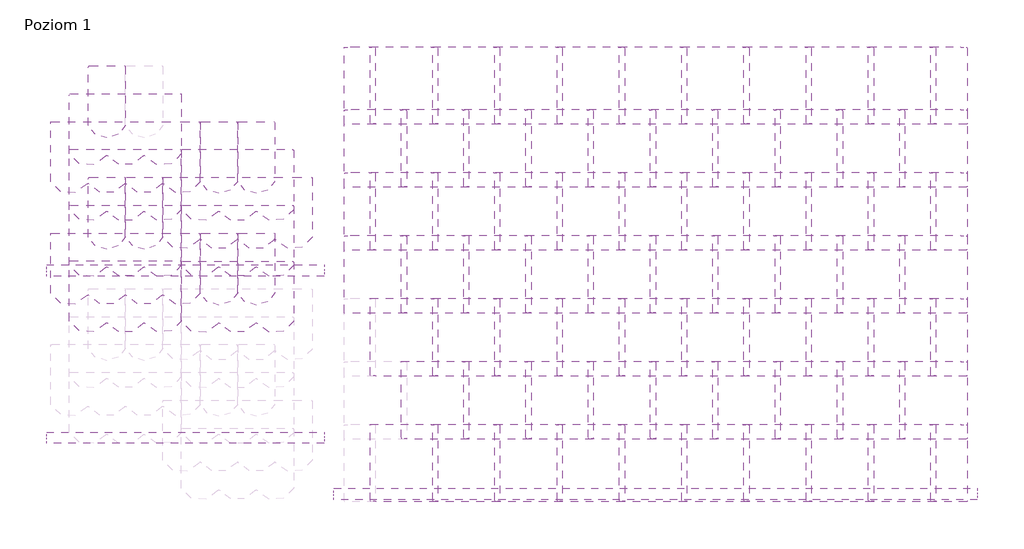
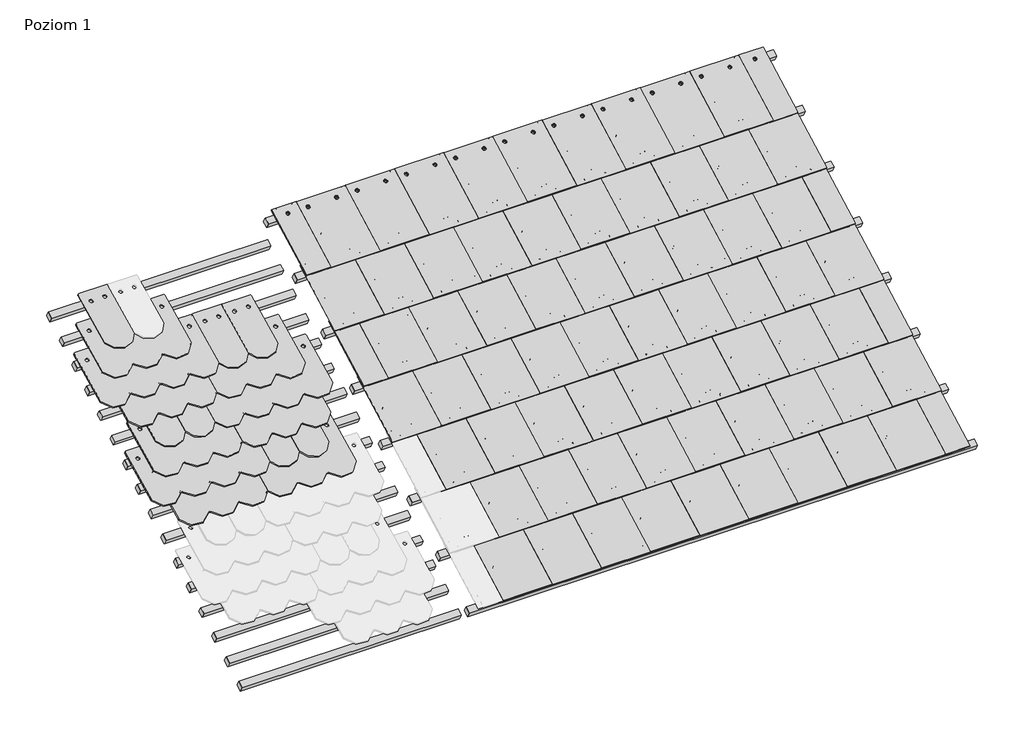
# One storey, part 2 of 2: 91 proxies.
"""IFC4 building model written with IfcOpenShell, lengths in millimetres."""

from ifc_helpers import new_model, si_unit, origin, place, context, project, spatial, transform, mapped, element, save
from components import specialty_equipment_79304ab4, specialty_equipment_e27853ea, specialty_equipment_401cbe25, proxy_1x_fa84d4f5, proxy_1x_8219172e, proxy_1x_6a27df64, proxy_3x_0312541a, proxy_3x_219e119c, proxy_4x_7edb7a29, battens_battens_69cfc6a3, battens_battens_79cefbce

model = new_model("IFC4")

# Units and contexts
model_context = context("Model", 3, world=origin())
ifc_project = project(units=[si_unit("LENGTHUNIT", "METRE", prefix="MILLI")], contexts=[model_context])

# Site, building, storey
site = spatial("IfcSite", under=ifc_project)
building = spatial("IfcBuilding", under=site)
storey = spatial("IfcBuildingStorey", under=building, Name="Poziom 1", Elevation=0.0)

# Proxies
placement = place(None, origin())
specialty_equipment_shape = specialty_equipment_79304ab4(model_context)
element("IfcBuildingElementProxy", 1, Name="ML PhotonRoof Flat Brick : 0.5X-P", ObjectType="ML PhotonRoof Flat Brick : 0.5X-P", at=placement, inside=storey, context=model_context, shape_type="MappedRepresentation", body=[
    mapped(specialty_equipment_shape, transform((2819.2113766, 4074.5738656, 2471.5895588), x_axis=(1.0, 0.0, 0.0), y_axis=(0.0, 0.8660254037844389, 0.4999999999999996), z_axis=(0.0, -0.4999999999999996, 0.8660254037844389))),
])
specialty_equipment_2_shape = specialty_equipment_e27853ea(model_context)
element("IfcBuildingElementProxy", 2, Name="ML PhotonRoof Flat Brick : 1X-L", ObjectType="ML PhotonRoof Flat Brick : 1X-L", at=placement, inside=storey, context=model_context, shape_type="MappedRepresentation", body=[
    mapped(specialty_equipment_2_shape, transform((-30.7886234, 3165.2471916, 1946.5895588), x_axis=(1.0, 0.0, 0.0), y_axis=(0.0, 0.8660254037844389, 0.4999999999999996), z_axis=(0.0, -0.4999999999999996, 0.8660254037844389))),
])
specialty_equipment_3_shape = specialty_equipment_401cbe25(model_context)
element("IfcBuildingElementProxy", 3, Name="ML PhotonRoof Flat Brick Premium : 0.5X-L", ObjectType="ML PhotonRoof Flat Brick Premium : 0.5X-L", at=placement, inside=storey, context=model_context, shape_type="MappedRepresentation", body=[
    mapped(specialty_equipment_3_shape, transform((-180.7886234, 4074.5738656, 2471.5895588), x_axis=(1.0, 0.0, 0.0), y_axis=(0.0, 0.8660254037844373, 0.5000000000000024), z_axis=(0.0, -0.5000000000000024, 0.8660254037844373))),
])
element("IfcBuildingElementProxy", 4, Name="ML PhotonRoof Flat Brick Premium : 0.5X-P", ObjectType="ML PhotonRoof Flat Brick Premium : 0.5X-P", at=placement, inside=storey, context=model_context, shape_type="MappedRepresentation", body=[
    mapped(specialty_equipment_shape, transform((2819.2113766, 2862.1383003, 1771.5895588), x_axis=(1.0, 0.0, 0.0), y_axis=(0.0, 0.8660254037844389, 0.4999999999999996), z_axis=(0.0, -0.4999999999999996, 0.8660254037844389))),
])
element("IfcBuildingElementProxy", 5, Name="ML PhotonRoof Flat Anthracite : 0.5X-L", ObjectType="ML PhotonRoof Flat Anthracite : 0.5X-L", at=placement, inside=storey, context=model_context, shape_type="MappedRepresentation", body=[
    mapped(specialty_equipment_3_shape, transform((-180.7886234, 3468.356083, 2121.5895588), x_axis=(1.0, 0.0, 0.0), y_axis=(0.0, 0.8660254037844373, 0.5000000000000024), z_axis=(0.0, -0.5000000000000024, 0.8660254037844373))),
])
element("IfcBuildingElementProxy", 6, Name="ML PhotonRoof Flat Anthracite : 1X-L", ObjectType="ML PhotonRoof Flat Anthracite : 1X-L", at=placement, inside=storey, context=model_context, shape_type="MappedRepresentation", body=[
    mapped(specialty_equipment_2_shape, transform((-30.7886234, 3771.4649743, 2296.5895588), x_axis=(1.0, 0.0, 0.0), y_axis=(0.0, 0.8660254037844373, 0.5000000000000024), z_axis=(0.0, -0.5000000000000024, 0.8660254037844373))),
])
element("IfcBuildingElementProxy", 7, Name="ML PhotonRoof Flat FullBlack : 0.5X-P", ObjectType="ML PhotonRoof Flat FullBlack : 0.5X-P", at=placement, inside=storey, context=model_context, shape_type="MappedRepresentation", body=[
    mapped(specialty_equipment_shape, transform((2819.2113766, 3468.356083, 2121.5895588), x_axis=(1.0, 0.0, 0.0), y_axis=(0.0, 0.8660254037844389, 0.4999999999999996), z_axis=(0.0, -0.4999999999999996, 0.8660254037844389))),
])
element("IfcBuildingElementProxy", 8, Name="ML PhotonRoof Flat FullBlack Premium : 0.5X-P", ObjectType="ML PhotonRoof Flat FullBlack Premium : 0.5X-P", at=placement, inside=storey, context=model_context, shape_type="MappedRepresentation", body=[
    mapped(specialty_equipment_shape, transform((2819.2113766, 2255.9205177, 1421.5895588), x_axis=(1.0, 0.0, 0.0), y_axis=(0.0, 0.8660254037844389, 0.4999999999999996), z_axis=(0.0, -0.4999999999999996, 0.8660254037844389))),
])
proxy_1x_shape = proxy_1x_fa84d4f5(model_context)
element("IfcBuildingElementProxy", 9, Name="ML PhotonRoof Flat Brick : 1X", ObjectType="ML PhotonRoof Flat Brick : 1X", at=placement, inside=storey, context=model_context, shape_type="MappedRepresentation", body=[
    mapped(proxy_1x_shape, transform((419.2113766, 4074.5738656, 2471.5895588), x_axis=(1.0, 0.0, 0.0), y_axis=(0.0, 0.8660254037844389, 0.4999999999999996), z_axis=(0.0, -0.4999999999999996, 0.8660254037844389))),
])
element("IfcBuildingElementProxy", 10, Name="ML PhotonRoof Flat Brick : 1X", ObjectType="ML PhotonRoof Flat Brick : 1X", at=placement, inside=storey, context=model_context, shape_type="MappedRepresentation", body=[
    mapped(proxy_1x_shape, transform((269.2113766, 3771.4649743, 2296.5895588), x_axis=(1.0, 0.0, 0.0), y_axis=(0.0, 0.8660254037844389, 0.4999999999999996), z_axis=(0.0, -0.4999999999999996, 0.8660254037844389))),
])
element("IfcBuildingElementProxy", 11, Name="ML PhotonRoof Flat Brick : 1X", ObjectType="ML PhotonRoof Flat Brick : 1X", at=placement, inside=storey, context=model_context, shape_type="MappedRepresentation", body=[
    mapped(proxy_1x_shape, transform((119.2113766, 3468.356083, 2121.5895588), x_axis=(1.0, 0.0, 0.0), y_axis=(0.0, 0.8660254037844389, 0.4999999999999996), z_axis=(0.0, -0.4999999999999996, 0.8660254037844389))),
])
element("IfcBuildingElementProxy", 12, Name="ML PhotonRoof Flat Brick : 1X", ObjectType="ML PhotonRoof Flat Brick : 1X", at=placement, inside=storey, context=model_context, shape_type="MappedRepresentation", body=[
    mapped(proxy_1x_shape, transform((1619.2113766, 4074.5738656, 2471.5895588), x_axis=(1.0, 0.0, 0.0), y_axis=(0.0, 0.8660254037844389, 0.4999999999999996), z_axis=(0.0, -0.4999999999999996, 0.8660254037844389))),
])
element("IfcBuildingElementProxy", 13, Name="ML PhotonRoof Flat Brick : 1X", ObjectType="ML PhotonRoof Flat Brick : 1X", at=placement, inside=storey, context=model_context, shape_type="MappedRepresentation", body=[
    mapped(proxy_1x_shape, transform((1469.2113766, 3771.4649743, 2296.5895588), x_axis=(1.0, 0.0, 0.0), y_axis=(0.0, 0.8660254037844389, 0.4999999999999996), z_axis=(0.0, -0.4999999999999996, 0.8660254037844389))),
])
element("IfcBuildingElementProxy", 14, Name="ML PhotonRoof Flat Brick : 1X", ObjectType="ML PhotonRoof Flat Brick : 1X", at=placement, inside=storey, context=model_context, shape_type="MappedRepresentation", body=[
    mapped(proxy_1x_shape, transform((1319.2113766, 3468.356083, 2121.5895588), x_axis=(1.0, 0.0, 0.0), y_axis=(0.0, 0.8660254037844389, 0.4999999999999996), z_axis=(0.0, -0.4999999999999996, 0.8660254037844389))),
])
element("IfcBuildingElementProxy", 15, Name="ML PhotonRoof Flat Brick : 1X", ObjectType="ML PhotonRoof Flat Brick : 1X", at=placement, inside=storey, context=model_context, shape_type="MappedRepresentation", body=[
    mapped(proxy_1x_shape, transform((1169.2113766, 3165.2471916, 1946.5895588), x_axis=(1.0, 0.0, 0.0), y_axis=(0.0, 0.8660254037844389, 0.4999999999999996), z_axis=(0.0, -0.4999999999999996, 0.8660254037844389))),
])
element("IfcBuildingElementProxy", 16, Name="ML PhotonRoof Flat Brick : 1X", ObjectType="ML PhotonRoof Flat Brick : 1X", at=placement, inside=storey, context=model_context, shape_type="MappedRepresentation", body=[
    mapped(proxy_1x_shape, transform((1019.2113766, 2862.1383003, 1771.5895588), x_axis=(1.0, 0.0, 0.0), y_axis=(0.0, 0.8660254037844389, 0.4999999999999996), z_axis=(0.0, -0.4999999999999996, 0.8660254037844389))),
])
element("IfcBuildingElementProxy", 17, Name="ML PhotonRoof Flat Brick : 1X", ObjectType="ML PhotonRoof Flat Brick : 1X", at=placement, inside=storey, context=model_context, shape_type="MappedRepresentation", body=[
    mapped(proxy_1x_shape, transform((869.2113766, 2559.029409, 1596.5895588), x_axis=(1.0, 0.0, 0.0), y_axis=(0.0, 0.8660254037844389, 0.4999999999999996), z_axis=(0.0, -0.4999999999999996, 0.8660254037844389))),
])
element("IfcBuildingElementProxy", 18, Name="ML PhotonRoof Flat Brick : 1X", ObjectType="ML PhotonRoof Flat Brick : 1X", at=placement, inside=storey, context=model_context, shape_type="MappedRepresentation", body=[
    mapped(proxy_1x_shape, transform((719.2113766, 2255.9205177, 1421.5895588), x_axis=(1.0, 0.0, 0.0), y_axis=(0.0, 0.8660254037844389, 0.4999999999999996), z_axis=(0.0, -0.4999999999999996, 0.8660254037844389))),
])
element("IfcBuildingElementProxy", 19, Name="ML PhotonRoof Flat Brick : 1X", ObjectType="ML PhotonRoof Flat Brick : 1X", at=placement, inside=storey, context=model_context, shape_type="MappedRepresentation", body=[
    mapped(proxy_1x_shape, transform((2669.2113766, 3771.4649743, 2296.5895588), x_axis=(1.0, 0.0, 0.0), y_axis=(0.0, 0.8660254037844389, 0.4999999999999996), z_axis=(0.0, -0.4999999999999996, 0.8660254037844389))),
])
element("IfcBuildingElementProxy", 20, Name="ML PhotonRoof Flat Brick : 1X", ObjectType="ML PhotonRoof Flat Brick : 1X", at=placement, inside=storey, context=model_context, shape_type="MappedRepresentation", body=[
    mapped(proxy_1x_shape, transform((2519.2113766, 3468.356083, 2121.5895588), x_axis=(1.0, 0.0, 0.0), y_axis=(0.0, 0.8660254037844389, 0.4999999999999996), z_axis=(0.0, -0.4999999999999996, 0.8660254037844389))),
])
element("IfcBuildingElementProxy", 21, Name="ML PhotonRoof Flat Brick : 1X", ObjectType="ML PhotonRoof Flat Brick : 1X", at=placement, inside=storey, context=model_context, shape_type="MappedRepresentation", body=[
    mapped(proxy_1x_shape, transform((2369.2113766, 3165.2471916, 1946.5895588), x_axis=(1.0, 0.0, 0.0), y_axis=(0.0, 0.8660254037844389, 0.4999999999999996), z_axis=(0.0, -0.4999999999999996, 0.8660254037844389))),
])
element("IfcBuildingElementProxy", 22, Name="ML PhotonRoof Flat Brick : 1X", ObjectType="ML PhotonRoof Flat Brick : 1X", at=placement, inside=storey, context=model_context, shape_type="MappedRepresentation", body=[
    mapped(proxy_1x_shape, transform((2219.2113766, 2862.1383003, 1771.5895588), x_axis=(1.0, 0.0, 0.0), y_axis=(0.0, 0.8660254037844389, 0.4999999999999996), z_axis=(0.0, -0.4999999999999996, 0.8660254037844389))),
])
element("IfcBuildingElementProxy", 23, Name="ML PhotonRoof Flat Brick : 1X", ObjectType="ML PhotonRoof Flat Brick : 1X", at=placement, inside=storey, context=model_context, shape_type="MappedRepresentation", body=[
    mapped(proxy_1x_shape, transform((2069.2113766, 2559.029409, 1596.5895588), x_axis=(1.0, 0.0, 0.0), y_axis=(0.0, 0.8660254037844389, 0.4999999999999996), z_axis=(0.0, -0.4999999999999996, 0.8660254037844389))),
])
element("IfcBuildingElementProxy", 24, Name="ML PhotonRoof Flat Brick : 1X", ObjectType="ML PhotonRoof Flat Brick : 1X", at=placement, inside=storey, context=model_context, shape_type="MappedRepresentation", body=[
    mapped(proxy_1x_shape, transform((1919.2113766, 2255.9205177, 1421.5895588), x_axis=(1.0, 0.0, 0.0), y_axis=(0.0, 0.8660254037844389, 0.4999999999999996), z_axis=(0.0, -0.4999999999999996, 0.8660254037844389))),
])
element("IfcBuildingElementProxy", 25, Name="ML PhotonRoof Flat Brick Premium : 1X", ObjectType="ML PhotonRoof Flat Brick Premium : 1X", at=placement, inside=storey, context=model_context, shape_type="MappedRepresentation", body=[
    mapped(proxy_1x_shape, transform((1019.2113766, 4074.5738656, 2471.5895588), x_axis=(1.0, 0.0, 0.0), y_axis=(0.0, 0.8660254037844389, 0.4999999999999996), z_axis=(0.0, -0.4999999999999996, 0.8660254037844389))),
])
element("IfcBuildingElementProxy", 26, Name="ML PhotonRoof Flat Brick Premium : 1X", ObjectType="ML PhotonRoof Flat Brick Premium : 1X", at=placement, inside=storey, context=model_context, shape_type="MappedRepresentation", body=[
    mapped(proxy_1x_shape, transform((869.2113766, 3771.4649743, 2296.5895588), x_axis=(1.0, 0.0, 0.0), y_axis=(0.0, 0.8660254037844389, 0.4999999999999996), z_axis=(0.0, -0.4999999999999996, 0.8660254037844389))),
])
element("IfcBuildingElementProxy", 27, Name="ML PhotonRoof Flat Brick Premium : 1X", ObjectType="ML PhotonRoof Flat Brick Premium : 1X", at=placement, inside=storey, context=model_context, shape_type="MappedRepresentation", body=[
    mapped(proxy_1x_shape, transform((719.2113766, 3468.356083, 2121.5895588), x_axis=(1.0, 0.0, 0.0), y_axis=(0.0, 0.8660254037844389, 0.4999999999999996), z_axis=(0.0, -0.4999999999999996, 0.8660254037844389))),
])
element("IfcBuildingElementProxy", 28, Name="ML PhotonRoof Flat Brick Premium : 1X", ObjectType="ML PhotonRoof Flat Brick Premium : 1X", at=placement, inside=storey, context=model_context, shape_type="MappedRepresentation", body=[
    mapped(proxy_1x_shape, transform((569.2113766, 3165.2471916, 1946.5895588), x_axis=(1.0, 0.0, 0.0), y_axis=(0.0, 0.8660254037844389, 0.4999999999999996), z_axis=(0.0, -0.4999999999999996, 0.8660254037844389))),
])
element("IfcBuildingElementProxy", 29, Name="ML PhotonRoof Flat Brick Premium : 1X", ObjectType="ML PhotonRoof Flat Brick Premium : 1X", at=placement, inside=storey, context=model_context, shape_type="MappedRepresentation", body=[
    mapped(proxy_1x_shape, transform((419.2113766, 2862.1383003, 1771.5895588), x_axis=(1.0, 0.0, 0.0), y_axis=(0.0, 0.8660254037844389, 0.4999999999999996), z_axis=(0.0, -0.4999999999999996, 0.8660254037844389))),
])
element("IfcBuildingElementProxy", 30, Name="ML PhotonRoof Flat Brick Premium : 1X", ObjectType="ML PhotonRoof Flat Brick Premium : 1X", at=placement, inside=storey, context=model_context, shape_type="MappedRepresentation", body=[
    mapped(proxy_1x_shape, transform((269.2113766, 2559.029409, 1596.5895588), x_axis=(1.0, 0.0, 0.0), y_axis=(0.0, 0.8660254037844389, 0.4999999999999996), z_axis=(0.0, -0.4999999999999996, 0.8660254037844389))),
])
element("IfcBuildingElementProxy", 31, Name="ML PhotonRoof Flat Brick Premium : 1X", ObjectType="ML PhotonRoof Flat Brick Premium : 1X", at=placement, inside=storey, context=model_context, shape_type="MappedRepresentation", body=[
    mapped(proxy_1x_shape, transform((119.2113766, 2255.9205177, 1421.5895588), x_axis=(1.0, 0.0, 0.0), y_axis=(0.0, 0.8660254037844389, 0.4999999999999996), z_axis=(0.0, -0.4999999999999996, 0.8660254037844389))),
])
element("IfcBuildingElementProxy", 32, Name="ML PhotonRoof Flat Brick Premium : 1X", ObjectType="ML PhotonRoof Flat Brick Premium : 1X", at=placement, inside=storey, context=model_context, shape_type="MappedRepresentation", body=[
    mapped(proxy_1x_shape, transform((2219.2113766, 4074.5738656, 2471.5895588), x_axis=(1.0, 0.0, 0.0), y_axis=(0.0, 0.8660254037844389, 0.4999999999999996), z_axis=(0.0, -0.4999999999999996, 0.8660254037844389))),
])
element("IfcBuildingElementProxy", 33, Name="ML PhotonRoof Flat Brick Premium : 1X", ObjectType="ML PhotonRoof Flat Brick Premium : 1X", at=placement, inside=storey, context=model_context, shape_type="MappedRepresentation", body=[
    mapped(proxy_1x_shape, transform((2069.2113766, 3771.4649743, 2296.5895588), x_axis=(1.0, 0.0, 0.0), y_axis=(0.0, 0.8660254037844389, 0.4999999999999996), z_axis=(0.0, -0.4999999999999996, 0.8660254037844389))),
])
element("IfcBuildingElementProxy", 34, Name="ML PhotonRoof Flat Brick Premium : 1X", ObjectType="ML PhotonRoof Flat Brick Premium : 1X", at=placement, inside=storey, context=model_context, shape_type="MappedRepresentation", body=[
    mapped(proxy_1x_shape, transform((1919.2113766, 3468.356083, 2121.5895588), x_axis=(1.0, 0.0, 0.0), y_axis=(0.0, 0.8660254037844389, 0.4999999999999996), z_axis=(0.0, -0.4999999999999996, 0.8660254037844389))),
])
element("IfcBuildingElementProxy", 35, Name="ML PhotonRoof Flat Brick Premium : 1X", ObjectType="ML PhotonRoof Flat Brick Premium : 1X", at=placement, inside=storey, context=model_context, shape_type="MappedRepresentation", body=[
    mapped(proxy_1x_shape, transform((1769.2113766, 3165.2471916, 1946.5895588), x_axis=(1.0, 0.0, 0.0), y_axis=(0.0, 0.8660254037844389, 0.4999999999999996), z_axis=(0.0, -0.4999999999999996, 0.8660254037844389))),
])
element("IfcBuildingElementProxy", 36, Name="ML PhotonRoof Flat Brick Premium : 1X", ObjectType="ML PhotonRoof Flat Brick Premium : 1X", at=placement, inside=storey, context=model_context, shape_type="MappedRepresentation", body=[
    mapped(proxy_1x_shape, transform((1619.2113766, 2862.1383003, 1771.5895588), x_axis=(1.0, 0.0, 0.0), y_axis=(0.0, 0.8660254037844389, 0.4999999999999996), z_axis=(0.0, -0.4999999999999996, 0.8660254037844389))),
])
element("IfcBuildingElementProxy", 37, Name="ML PhotonRoof Flat Brick Premium : 1X", ObjectType="ML PhotonRoof Flat Brick Premium : 1X", at=placement, inside=storey, context=model_context, shape_type="MappedRepresentation", body=[
    mapped(proxy_1x_shape, transform((1469.2113766, 2559.029409, 1596.5895588), x_axis=(1.0, 0.0, 0.0), y_axis=(0.0, 0.8660254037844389, 0.4999999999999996), z_axis=(0.0, -0.4999999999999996, 0.8660254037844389))),
])
element("IfcBuildingElementProxy", 38, Name="ML PhotonRoof Flat Brick Premium : 1X", ObjectType="ML PhotonRoof Flat Brick Premium : 1X", at=placement, inside=storey, context=model_context, shape_type="MappedRepresentation", body=[
    mapped(proxy_1x_shape, transform((1319.2113766, 2255.9205177, 1421.5895588), x_axis=(1.0, 0.0, 0.0), y_axis=(0.0, 0.8660254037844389, 0.4999999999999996), z_axis=(0.0, -0.4999999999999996, 0.8660254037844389))),
])
element("IfcBuildingElementProxy", 39, Name="ML PhotonRoof Flat Brick Premium : 1X", ObjectType="ML PhotonRoof Flat Brick Premium : 1X", at=placement, inside=storey, context=model_context, shape_type="MappedRepresentation", body=[
    mapped(proxy_1x_shape, transform((2669.2113766, 2559.029409, 1596.5895588), x_axis=(1.0, 0.0, 0.0), y_axis=(0.0, 0.8660254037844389, 0.4999999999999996), z_axis=(0.0, -0.4999999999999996, 0.8660254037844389))),
])
element("IfcBuildingElementProxy", 40, Name="ML PhotonRoof Flat Brick Premium : 1X", ObjectType="ML PhotonRoof Flat Brick Premium : 1X", at=placement, inside=storey, context=model_context, shape_type="MappedRepresentation", body=[
    mapped(proxy_1x_shape, transform((2519.2113766, 2255.9205177, 1421.5895588), x_axis=(1.0, 0.0, 0.0), y_axis=(0.0, 0.8660254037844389, 0.4999999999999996), z_axis=(0.0, -0.4999999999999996, 0.8660254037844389))),
])
element("IfcBuildingElementProxy", 41, Name="ML PhotonRoof Flat Anthracite Premium : 1X", ObjectType="ML PhotonRoof Flat Anthracite Premium : 1X", at=placement, inside=storey, context=model_context, shape_type="MappedRepresentation", body=[
    mapped(proxy_1x_shape, transform((1919.2113766, 4074.5738656, 2471.5895588), x_axis=(1.0, 0.0, 0.0), y_axis=(0.0, 0.8660254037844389, 0.4999999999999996), z_axis=(0.0, -0.4999999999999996, 0.8660254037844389))),
])
element("IfcBuildingElementProxy", 42, Name="ML PhotonRoof Flat Anthracite Premium : 1X", ObjectType="ML PhotonRoof Flat Anthracite Premium : 1X", at=placement, inside=storey, context=model_context, shape_type="MappedRepresentation", body=[
    mapped(proxy_1x_shape, transform((1769.2113766, 3771.4649743, 2296.5895588), x_axis=(1.0, 0.0, 0.0), y_axis=(0.0, 0.8660254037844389, 0.4999999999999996), z_axis=(0.0, -0.4999999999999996, 0.8660254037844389))),
])
element("IfcBuildingElementProxy", 43, Name="ML PhotonRoof Flat Anthracite Premium : 1X", ObjectType="ML PhotonRoof Flat Anthracite Premium : 1X", at=placement, inside=storey, context=model_context, shape_type="MappedRepresentation", body=[
    mapped(proxy_1x_shape, transform((1619.2113766, 3468.356083, 2121.5895588), x_axis=(1.0, 0.0, 0.0), y_axis=(0.0, 0.8660254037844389, 0.4999999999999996), z_axis=(0.0, -0.4999999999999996, 0.8660254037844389))),
])
element("IfcBuildingElementProxy", 44, Name="ML PhotonRoof Flat Anthracite Premium : 1X", ObjectType="ML PhotonRoof Flat Anthracite Premium : 1X", at=placement, inside=storey, context=model_context, shape_type="MappedRepresentation", body=[
    mapped(proxy_1x_shape, transform((1469.2113766, 3165.2471916, 1946.5895588), x_axis=(1.0, 0.0, 0.0), y_axis=(0.0, 0.8660254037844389, 0.4999999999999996), z_axis=(0.0, -0.4999999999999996, 0.8660254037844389))),
])
element("IfcBuildingElementProxy", 45, Name="ML PhotonRoof Flat Anthracite Premium : 1X", ObjectType="ML PhotonRoof Flat Anthracite Premium : 1X", at=placement, inside=storey, context=model_context, shape_type="MappedRepresentation", body=[
    mapped(proxy_1x_shape, transform((1319.2113766, 2862.1383003, 1771.5895588), x_axis=(1.0, 0.0, 0.0), y_axis=(0.0, 0.8660254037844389, 0.4999999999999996), z_axis=(0.0, -0.4999999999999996, 0.8660254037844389))),
])
element("IfcBuildingElementProxy", 46, Name="ML PhotonRoof Flat Anthracite Premium : 1X", ObjectType="ML PhotonRoof Flat Anthracite Premium : 1X", at=placement, inside=storey, context=model_context, shape_type="MappedRepresentation", body=[
    mapped(proxy_1x_shape, transform((1169.2113766, 2559.029409, 1596.5895588), x_axis=(1.0, 0.0, 0.0), y_axis=(0.0, 0.8660254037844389, 0.4999999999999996), z_axis=(0.0, -0.4999999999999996, 0.8660254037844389))),
])
element("IfcBuildingElementProxy", 47, Name="ML PhotonRoof Flat Anthracite Premium : 1X", ObjectType="ML PhotonRoof Flat Anthracite Premium : 1X", at=placement, inside=storey, context=model_context, shape_type="MappedRepresentation", body=[
    mapped(proxy_1x_shape, transform((1019.2113766, 2255.9205177, 1421.5895588), x_axis=(1.0, 0.0, 0.0), y_axis=(0.0, 0.8660254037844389, 0.4999999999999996), z_axis=(0.0, -0.4999999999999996, 0.8660254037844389))),
])
element("IfcBuildingElementProxy", 48, Name="ML PhotonRoof Flat Anthracite : 1X", ObjectType="ML PhotonRoof Flat Anthracite : 1X", at=placement, inside=storey, context=model_context, shape_type="MappedRepresentation", body=[
    mapped(proxy_1x_shape, transform((119.2113766, 4074.5738656, 2471.5895588), x_axis=(1.0, 0.0, 0.0), y_axis=(0.0, 0.8660254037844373, 0.5000000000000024), z_axis=(0.0, -0.5000000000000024, 0.8660254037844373))),
])
element("IfcBuildingElementProxy", 49, Name="ML PhotonRoof Flat Anthracite : 1X", ObjectType="ML PhotonRoof Flat Anthracite : 1X", at=placement, inside=storey, context=model_context, shape_type="MappedRepresentation", body=[
    mapped(proxy_1x_shape, transform((2519.2113766, 4074.5738656, 2471.5895588), x_axis=(1.0, 0.0, 0.0), y_axis=(0.0, 0.8660254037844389, 0.4999999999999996), z_axis=(0.0, -0.4999999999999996, 0.8660254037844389))),
])
element("IfcBuildingElementProxy", 50, Name="ML PhotonRoof Flat Anthracite : 1X", ObjectType="ML PhotonRoof Flat Anthracite : 1X", at=placement, inside=storey, context=model_context, shape_type="MappedRepresentation", body=[
    mapped(proxy_1x_shape, transform((2369.2113766, 3771.4649743, 2296.5895588), x_axis=(1.0, 0.0, 0.0), y_axis=(0.0, 0.8660254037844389, 0.4999999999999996), z_axis=(0.0, -0.4999999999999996, 0.8660254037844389))),
])
element("IfcBuildingElementProxy", 51, Name="ML PhotonRoof Flat Anthracite : 1X", ObjectType="ML PhotonRoof Flat Anthracite : 1X", at=placement, inside=storey, context=model_context, shape_type="MappedRepresentation", body=[
    mapped(proxy_1x_shape, transform((2219.2113766, 3468.356083, 2121.5895588), x_axis=(1.0, 0.0, 0.0), y_axis=(0.0, 0.8660254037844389, 0.4999999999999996), z_axis=(0.0, -0.4999999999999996, 0.8660254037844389))),
])
element("IfcBuildingElementProxy", 52, Name="ML PhotonRoof Flat Anthracite : 1X", ObjectType="ML PhotonRoof Flat Anthracite : 1X", at=placement, inside=storey, context=model_context, shape_type="MappedRepresentation", body=[
    mapped(proxy_1x_shape, transform((2069.2113766, 3165.2471916, 1946.5895588), x_axis=(1.0, 0.0, 0.0), y_axis=(0.0, 0.8660254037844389, 0.4999999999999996), z_axis=(0.0, -0.4999999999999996, 0.8660254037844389))),
])
element("IfcBuildingElementProxy", 53, Name="ML PhotonRoof Flat Anthracite : 1X", ObjectType="ML PhotonRoof Flat Anthracite : 1X", at=placement, inside=storey, context=model_context, shape_type="MappedRepresentation", body=[
    mapped(proxy_1x_shape, transform((1919.2113766, 2862.1383003, 1771.5895588), x_axis=(1.0, 0.0, 0.0), y_axis=(0.0, 0.8660254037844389, 0.4999999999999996), z_axis=(0.0, -0.4999999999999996, 0.8660254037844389))),
])
element("IfcBuildingElementProxy", 54, Name="ML PhotonRoof Flat Anthracite : 1X", ObjectType="ML PhotonRoof Flat Anthracite : 1X", at=placement, inside=storey, context=model_context, shape_type="MappedRepresentation", body=[
    mapped(proxy_1x_shape, transform((1769.2113766, 2559.029409, 1596.5895588), x_axis=(1.0, 0.0, 0.0), y_axis=(0.0, 0.8660254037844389, 0.4999999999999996), z_axis=(0.0, -0.4999999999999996, 0.8660254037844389))),
])
element("IfcBuildingElementProxy", 55, Name="ML PhotonRoof Flat Anthracite : 1X", ObjectType="ML PhotonRoof Flat Anthracite : 1X", at=placement, inside=storey, context=model_context, shape_type="MappedRepresentation", body=[
    mapped(proxy_1x_shape, transform((1619.2113766, 2255.9205177, 1421.5895588), x_axis=(1.0, 0.0, 0.0), y_axis=(0.0, 0.8660254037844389, 0.4999999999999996), z_axis=(0.0, -0.4999999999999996, 0.8660254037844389))),
])
element("IfcBuildingElementProxy", 56, Name="ML PhotonRoof Flat FullBlack : 1X", ObjectType="ML PhotonRoof Flat FullBlack : 1X", at=placement, inside=storey, context=model_context, shape_type="MappedRepresentation", body=[
    mapped(proxy_1x_shape, transform((719.2113766, 4074.5738656, 2471.5895588), x_axis=(1.0, 0.0, 0.0), y_axis=(0.0, 0.8660254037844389, 0.4999999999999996), z_axis=(0.0, -0.4999999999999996, 0.8660254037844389))),
])
element("IfcBuildingElementProxy", 57, Name="ML PhotonRoof Flat FullBlack : 1X", ObjectType="ML PhotonRoof Flat FullBlack : 1X", at=placement, inside=storey, context=model_context, shape_type="MappedRepresentation", body=[
    mapped(proxy_1x_shape, transform((569.2113766, 3771.4649743, 2296.5895588), x_axis=(1.0, 0.0, 0.0), y_axis=(0.0, 0.8660254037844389, 0.4999999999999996), z_axis=(0.0, -0.4999999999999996, 0.8660254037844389))),
])
element("IfcBuildingElementProxy", 58, Name="ML PhotonRoof Flat FullBlack : 1X", ObjectType="ML PhotonRoof Flat FullBlack : 1X", at=placement, inside=storey, context=model_context, shape_type="MappedRepresentation", body=[
    mapped(proxy_1x_shape, transform((419.2113766, 3468.356083, 2121.5895588), x_axis=(1.0, 0.0, 0.0), y_axis=(0.0, 0.8660254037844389, 0.4999999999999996), z_axis=(0.0, -0.4999999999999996, 0.8660254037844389))),
])
element("IfcBuildingElementProxy", 59, Name="ML PhotonRoof Flat FullBlack : 1X", ObjectType="ML PhotonRoof Flat FullBlack : 1X", at=placement, inside=storey, context=model_context, shape_type="MappedRepresentation", body=[
    mapped(proxy_1x_shape, transform((269.2113766, 3165.2471916, 1946.5895588), x_axis=(1.0, 0.0, 0.0), y_axis=(0.0, 0.8660254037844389, 0.4999999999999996), z_axis=(0.0, -0.4999999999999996, 0.8660254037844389))),
])
element("IfcBuildingElementProxy", 60, Name="ML PhotonRoof Flat FullBlack : 1X", ObjectType="ML PhotonRoof Flat FullBlack : 1X", at=placement, inside=storey, context=model_context, shape_type="MappedRepresentation", body=[
    mapped(proxy_1x_shape, transform((119.2113766, 2862.1383003, 1771.5895588), x_axis=(1.0, 0.0, 0.0), y_axis=(0.0, 0.8660254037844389, 0.4999999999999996), z_axis=(0.0, -0.4999999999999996, 0.8660254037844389))),
])
element("IfcBuildingElementProxy", 61, Name="ML PhotonRoof Flat FullBlack : 1X", ObjectType="ML PhotonRoof Flat FullBlack : 1X", at=placement, inside=storey, context=model_context, shape_type="MappedRepresentation", body=[
    mapped(proxy_1x_shape, transform((2669.2113766, 3165.2471916, 1946.5895588), x_axis=(1.0, 0.0, 0.0), y_axis=(0.0, 0.8660254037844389, 0.4999999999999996), z_axis=(0.0, -0.4999999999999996, 0.8660254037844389))),
])
element("IfcBuildingElementProxy", 62, Name="ML PhotonRoof Flat FullBlack : 1X", ObjectType="ML PhotonRoof Flat FullBlack : 1X", at=placement, inside=storey, context=model_context, shape_type="MappedRepresentation", body=[
    mapped(proxy_1x_shape, transform((2519.2113766, 2862.1383003, 1771.5895588), x_axis=(1.0, 0.0, 0.0), y_axis=(0.0, 0.8660254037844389, 0.4999999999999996), z_axis=(0.0, -0.4999999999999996, 0.8660254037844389))),
])
element("IfcBuildingElementProxy", 63, Name="ML PhotonRoof Flat FullBlack : 1X", ObjectType="ML PhotonRoof Flat FullBlack : 1X", at=placement, inside=storey, context=model_context, shape_type="MappedRepresentation", body=[
    mapped(proxy_1x_shape, transform((2369.2113766, 2559.029409, 1596.5895588), x_axis=(1.0, 0.0, 0.0), y_axis=(0.0, 0.8660254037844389, 0.4999999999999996), z_axis=(0.0, -0.4999999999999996, 0.8660254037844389))),
])
element("IfcBuildingElementProxy", 64, Name="ML PhotonRoof Flat FullBlack : 1X", ObjectType="ML PhotonRoof Flat FullBlack : 1X", at=placement, inside=storey, context=model_context, shape_type="MappedRepresentation", body=[
    mapped(proxy_1x_shape, transform((2219.2113766, 2255.9205177, 1421.5895588), x_axis=(1.0, 0.0, 0.0), y_axis=(0.0, 0.8660254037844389, 0.4999999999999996), z_axis=(0.0, -0.4999999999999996, 0.8660254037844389))),
])
element("IfcBuildingElementProxy", 65, Name="ML PhotonRoof Flat FullBlack Premium : 1X", ObjectType="ML PhotonRoof Flat FullBlack Premium : 1X", at=placement, inside=storey, context=model_context, shape_type="MappedRepresentation", body=[
    mapped(proxy_1x_shape, transform((1319.2113766, 4074.5738656, 2471.5895588), x_axis=(1.0, 0.0, 0.0), y_axis=(0.0, 0.8660254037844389, 0.4999999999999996), z_axis=(0.0, -0.4999999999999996, 0.8660254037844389))),
])
element("IfcBuildingElementProxy", 66, Name="ML PhotonRoof Flat FullBlack Premium : 1X", ObjectType="ML PhotonRoof Flat FullBlack Premium : 1X", at=placement, inside=storey, context=model_context, shape_type="MappedRepresentation", body=[
    mapped(proxy_1x_shape, transform((1169.2113766, 3771.4649743, 2296.5895588), x_axis=(1.0, 0.0, 0.0), y_axis=(0.0, 0.8660254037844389, 0.4999999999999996), z_axis=(0.0, -0.4999999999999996, 0.8660254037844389))),
])
element("IfcBuildingElementProxy", 67, Name="ML PhotonRoof Flat FullBlack Premium : 1X", ObjectType="ML PhotonRoof Flat FullBlack Premium : 1X", at=placement, inside=storey, context=model_context, shape_type="MappedRepresentation", body=[
    mapped(proxy_1x_shape, transform((1019.2113766, 3468.356083, 2121.5895588), x_axis=(1.0, 0.0, 0.0), y_axis=(0.0, 0.8660254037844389, 0.4999999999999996), z_axis=(0.0, -0.4999999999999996, 0.8660254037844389))),
])
element("IfcBuildingElementProxy", 68, Name="ML PhotonRoof Flat FullBlack Premium : 1X", ObjectType="ML PhotonRoof Flat FullBlack Premium : 1X", at=placement, inside=storey, context=model_context, shape_type="MappedRepresentation", body=[
    mapped(proxy_1x_shape, transform((869.2113766, 3165.2471916, 1946.5895588), x_axis=(1.0, 0.0, 0.0), y_axis=(0.0, 0.8660254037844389, 0.4999999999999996), z_axis=(0.0, -0.4999999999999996, 0.8660254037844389))),
])
element("IfcBuildingElementProxy", 69, Name="ML PhotonRoof Flat FullBlack Premium : 1X", ObjectType="ML PhotonRoof Flat FullBlack Premium : 1X", at=placement, inside=storey, context=model_context, shape_type="MappedRepresentation", body=[
    mapped(proxy_1x_shape, transform((719.2113766, 2862.1383003, 1771.5895588), x_axis=(1.0, 0.0, 0.0), y_axis=(0.0, 0.8660254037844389, 0.4999999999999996), z_axis=(0.0, -0.4999999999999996, 0.8660254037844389))),
])
element("IfcBuildingElementProxy", 70, Name="ML PhotonRoof Flat FullBlack Premium : 1X", ObjectType="ML PhotonRoof Flat FullBlack Premium : 1X", at=placement, inside=storey, context=model_context, shape_type="MappedRepresentation", body=[
    mapped(proxy_1x_shape, transform((569.2113766, 2559.029409, 1596.5895588), x_axis=(1.0, 0.0, 0.0), y_axis=(0.0, 0.8660254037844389, 0.4999999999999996), z_axis=(0.0, -0.4999999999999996, 0.8660254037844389))),
])
element("IfcBuildingElementProxy", 71, Name="ML PhotonRoof Flat FullBlack Premium : 1X", ObjectType="ML PhotonRoof Flat FullBlack Premium : 1X", at=placement, inside=storey, context=model_context, shape_type="MappedRepresentation", body=[
    mapped(proxy_1x_shape, transform((419.2113766, 2255.9205177, 1421.5895588), x_axis=(1.0, 0.0, 0.0), y_axis=(0.0, 0.8660254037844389, 0.4999999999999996), z_axis=(0.0, -0.4999999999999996, 0.8660254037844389))),
])
proxy_1x_2_shape = proxy_1x_8219172e(model_context)
element("IfcBuildingElementProxy", 72, Name="ML PhotonRoof Beaver Brick Premium : 1X", ObjectType="ML PhotonRoof Beaver Brick Premium : 1X", at=placement, inside=storey, context=model_context, shape_type="MappedRepresentation", body=[
    mapped(proxy_1x_2_shape, transform((-605.027176, 3164.0553118, 1945.9014266), x_axis=(1.0, 0.0, 0.0), y_axis=(0.0, 0.8660254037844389, 0.4999999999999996), z_axis=(0.0, -0.4999999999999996, 0.8660254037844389))),
])
element("IfcBuildingElementProxy", 73, Name="ML PhotonRoof Beaver Brick Premium : 1X", ObjectType="ML PhotonRoof Beaver Brick Premium : 1X", at=placement, inside=storey, context=model_context, shape_type="MappedRepresentation", body=[
    mapped(proxy_1x_2_shape, transform((-785.027176, 3164.0553118, 1945.9014266), x_axis=(1.0, 0.0, 0.0), y_axis=(0.0, 0.8660254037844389, 0.4999999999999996), z_axis=(0.0, -0.4999999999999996, 0.8660254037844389))),
])
proxy_1x_3_shape = proxy_1x_6a27df64(model_context)
element("IfcBuildingElementProxy", 74, Name="ML PhotonRoof Beaver Brick : 1X", ObjectType="ML PhotonRoof Beaver Brick : 1X", at=placement, inside=storey, context=model_context, shape_type="MappedRepresentation", body=[
    mapped(proxy_1x_3_shape, transform((-1145.027176, 3432.523187, 2100.9014266), x_axis=(1.0, 0.0, 0.0), y_axis=(0.0, 0.8660254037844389, 0.4999999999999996), z_axis=(0.0, -0.4999999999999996, 0.8660254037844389))),
])
element("IfcBuildingElementProxy", 75, Name="ML PhotonRoof Beaver Brick : 1X", ObjectType="ML PhotonRoof Beaver Brick : 1X", at=placement, inside=storey, context=model_context, shape_type="MappedRepresentation", body=[
    mapped(proxy_1x_3_shape, transform((-1325.027176, 3432.523187, 2100.9014266), x_axis=(1.0, 0.0, 0.0), y_axis=(0.0, 0.8660254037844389, 0.4999999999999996), z_axis=(0.0, -0.4999999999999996, 0.8660254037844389))),
])
element("IfcBuildingElementProxy", 76, Name="ML PhotonRoof Beaver Anthracite Premium : 1X", ObjectType="ML PhotonRoof Beaver Anthracite Premium : 1X", at=placement, inside=storey, context=model_context, shape_type="MappedRepresentation", body=[
    mapped(proxy_1x_3_shape, transform((-605.027176, 3700.9910621, 2255.9014266), x_axis=(1.0, 0.0, 0.0), y_axis=(0.0, 0.8660254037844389, 0.4999999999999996), z_axis=(0.0, -0.4999999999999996, 0.8660254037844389))),
])
element("IfcBuildingElementProxy", 77, Name="ML PhotonRoof Beaver Anthracite Premium : 1X", ObjectType="ML PhotonRoof Beaver Anthracite Premium : 1X", at=placement, inside=storey, context=model_context, shape_type="MappedRepresentation", body=[
    mapped(proxy_1x_3_shape, transform((-785.027176, 3700.9910621, 2255.9014266), x_axis=(1.0, 0.0, 0.0), y_axis=(0.0, 0.8660254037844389, 0.4999999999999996), z_axis=(0.0, -0.4999999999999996, 0.8660254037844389))),
])
element("IfcBuildingElementProxy", 78, Name="ML PhotonRoof Beaver Anthracite : 1X", ObjectType="ML PhotonRoof Beaver Anthracite : 1X", at=placement, inside=storey, context=model_context, shape_type="MappedRepresentation", body=[
    mapped(proxy_1x_3_shape, transform((-1325.027176, 3969.4589373, 2410.9014266), x_axis=(1.0, 0.0, 0.0), y_axis=(0.0, 0.8660254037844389, 0.4999999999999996), z_axis=(0.0, -0.4999999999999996, 0.8660254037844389))),
])
proxy_3x_shape = proxy_3x_0312541a(model_context)
element("IfcBuildingElementProxy", 79, Name="ML PhotonRoof Beaver Brick Premium : 3X", ObjectType="ML PhotonRoof Beaver Brick Premium : 3X", at=placement, inside=storey, context=model_context, shape_type="MappedRepresentation", body=[
    mapped(proxy_3x_shape, transform((-875.027176, 3029.8213742, 1868.4014266), x_axis=(1.0, 0.0, 0.0), y_axis=(0.0, 0.8660254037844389, 0.4999999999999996), z_axis=(0.0, -0.4999999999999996, 0.8660254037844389))),
])
proxy_3x_2_shape = proxy_3x_219e119c(model_context)
element("IfcBuildingElementProxy", 80, Name="ML PhotonRoof Beaver Brick : 3X", ObjectType="ML PhotonRoof Beaver Brick : 3X", at=placement, inside=storey, context=model_context, shape_type="MappedRepresentation", body=[
    mapped(proxy_3x_2_shape, transform((-1415.027176, 3298.2892494, 2023.4014266), x_axis=(1.0, 0.0, 0.0), y_axis=(0.0, 0.8660254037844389, 0.4999999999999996), z_axis=(0.0, -0.4999999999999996, 0.8660254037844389))),
])
element("IfcBuildingElementProxy", 81, Name="ML PhotonRoof Beaver Brick : 3X", ObjectType="ML PhotonRoof Beaver Brick : 3X", at=placement, inside=storey, context=model_context, shape_type="MappedRepresentation", body=[
    mapped(proxy_3x_2_shape, transform((-1415.027176, 3029.8213742, 1868.4014266), x_axis=(1.0, 0.0, 0.0), y_axis=(0.0, 0.8660254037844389, 0.4999999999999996), z_axis=(0.0, -0.4999999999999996, 0.8660254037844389))),
])
element("IfcBuildingElementProxy", 82, Name="ML PhotonRoof Beaver Anthracite Premium : 3X", ObjectType="ML PhotonRoof Beaver Anthracite Premium : 3X", at=placement, inside=storey, context=model_context, shape_type="MappedRepresentation", body=[
    mapped(proxy_3x_2_shape, transform((-875.027176, 3566.7571245, 2178.4014266), x_axis=(1.0, 0.0, 0.0), y_axis=(0.0, 0.8660254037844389, 0.4999999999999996), z_axis=(0.0, -0.4999999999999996, 0.8660254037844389))),
])
element("IfcBuildingElementProxy", 83, Name="ML PhotonRoof Beaver Anthracite Premium : 3X", ObjectType="ML PhotonRoof Beaver Anthracite Premium : 3X", at=placement, inside=storey, context=model_context, shape_type="MappedRepresentation", body=[
    mapped(proxy_3x_2_shape, transform((-875.027176, 3298.2892494, 2023.4014266), x_axis=(1.0, 0.0, 0.0), y_axis=(0.0, 0.8660254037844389, 0.4999999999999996), z_axis=(0.0, -0.4999999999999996, 0.8660254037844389))),
])
element("IfcBuildingElementProxy", 84, Name="ML PhotonRoof Beaver Anthracite : 3X", ObjectType="ML PhotonRoof Beaver Anthracite : 3X", at=placement, inside=storey, context=model_context, shape_type="MappedRepresentation", body=[
    mapped(proxy_3x_2_shape, transform((-1415.027176, 3835.2249997, 2333.4014266), x_axis=(1.0, 0.0, 0.0), y_axis=(0.0, 0.8660254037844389, 0.4999999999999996), z_axis=(0.0, -0.4999999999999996, 0.8660254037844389))),
])
element("IfcBuildingElementProxy", 85, Name="ML PhotonRoof Beaver Anthracite : 3X", ObjectType="ML PhotonRoof Beaver Anthracite : 3X", at=placement, inside=storey, context=model_context, shape_type="MappedRepresentation", body=[
    mapped(proxy_3x_2_shape, transform((-1415.027176, 3566.7571245, 2178.4014266), x_axis=(1.0, 0.0, 0.0), y_axis=(0.0, 0.8660254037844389, 0.4999999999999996), z_axis=(0.0, -0.4999999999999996, 0.8660254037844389))),
])
proxy_4x_shape = proxy_4x_7edb7a29(model_context)
element("IfcBuildingElementProxy", 86, Name="ML PhotonRoof Beaver Brick : 4X", ObjectType="ML PhotonRoof Beaver Brick : 4X", at=placement, inside=storey, context=model_context, shape_type="MappedRepresentation", body=[
    mapped(proxy_4x_shape, transform((-1505.027176, 3164.0553118, 1945.9014266), x_axis=(1.0, 0.0, 0.0), y_axis=(0.0, 0.8660254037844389, 0.4999999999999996), z_axis=(0.0, -0.4999999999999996, 0.8660254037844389))),
])
element("IfcBuildingElementProxy", 87, Name="ML PhotonRoof Beaver Anthracite Premium : 4X", ObjectType="ML PhotonRoof Beaver Anthracite Premium : 4X", at=placement, inside=storey, context=model_context, shape_type="MappedRepresentation", body=[
    mapped(proxy_4x_shape, transform((-965.027176, 3432.523187, 2100.9014266), x_axis=(1.0, 0.0, 0.0), y_axis=(0.0, 0.8660254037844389, 0.4999999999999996), z_axis=(0.0, -0.4999999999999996, 0.8660254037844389))),
])
element("IfcBuildingElementProxy", 88, Name="ML PhotonRoof Beaver Anthracite : 4X", ObjectType="ML PhotonRoof Beaver Anthracite : 4X", at=placement, inside=storey, context=model_context, shape_type="MappedRepresentation", body=[
    mapped(proxy_4x_shape, transform((-1505.027176, 3700.9910621, 2255.9014266), x_axis=(1.0, 0.0, 0.0), y_axis=(0.0, 0.8660254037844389, 0.4999999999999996), z_axis=(0.0, -0.4999999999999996, 0.8660254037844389))),
])
battens_battens_shape = battens_battens_69cfc6a3(model_context)
element("IfcBuildingElementProxy", 89, Name="Battens : Battens", ObjectType="Battens : Battens", at=placement, inside=storey, context=model_context, shape_type="MappedRepresentation", body=[
    mapped(battens_battens_shape, transform((-1615.027176, 3989.4589373, 2376.2604105), x_axis=(1.0, 0.0, 0.0), y_axis=(0.0, 0.8660254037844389, 0.4999999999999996), z_axis=(0.0, -0.4999999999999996, 0.8660254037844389))),
])
element("IfcBuildingElementProxy", 90, Name="Battens : Battens", ObjectType="Battens : Battens", at=placement, inside=storey, context=model_context, shape_type="MappedRepresentation", body=[
    mapped(battens_battens_shape, transform((-1615.027176, 2915.5874366, 1756.2604105), x_axis=(1.0, 0.0, 0.0), y_axis=(0.0, 0.8660254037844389, 0.4999999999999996), z_axis=(0.0, -0.4999999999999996, 0.8660254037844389))),
])
battens_battens_2_shape = battens_battens_79cefbce(model_context)
element("IfcBuildingElementProxy", 91, Name="Battens : Battens", ObjectType="Battens : Battens", at=placement, inside=storey, context=model_context, shape_type="MappedRepresentation", body=[
    mapped(battens_battens_2_shape, transform((-230.7886234, 4094.5738656, 2436.9485426), x_axis=(1.0, 0.0, 0.0), y_axis=(0.0, 0.8660254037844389, 0.4999999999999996), z_axis=(0.0, -0.4999999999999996, 0.8660254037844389))),
])

save(model, "model.ifc")
